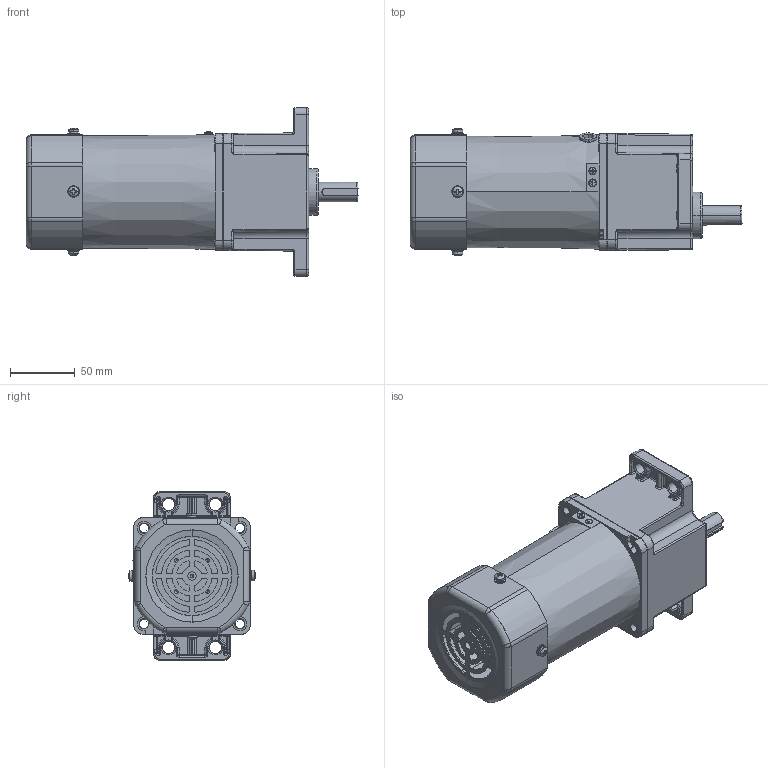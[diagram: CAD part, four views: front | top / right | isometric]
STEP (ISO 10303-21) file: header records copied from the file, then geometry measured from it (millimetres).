
FILE_DESCRIPTION (( 'STEP AP203' ), '1' );
FILE_NAME ('5IK90RGU-CF(5GU3K-200K).STEP', '2023-08-08T06:46:30', ( 'Windows User' ), ( 'P R C' ), 'SwSTEP 2.0', 'SolidWorks 2019', '' );
FILE_SCHEMA (( 'CONFIG_CONTROL_DESIGN' ));
Length unit declared in the file: millimetre
Products named in the file (9): 90TSFZ^5IK90RA-CF_5IK90RGU-CF(5GU3K-200K)(2)_5IK90RGU-CF(5GU3K-200K); ^_5GU3K-200K_5IK90RGU-CF(5GU3K-200K)(2)_5IK90RGU-CF(5GU3K-200K); 5IK90RGU-CF(5GU3K-200K); ^5GU3K-200K_5IK90RGU-CF(5GU3K-200K)(2)_5IK90RGU-CF(5GU3K-200K); 5IK90RA-CF^5IK90RGU-CF(5GU3K-200K)(2)_5IK90RGU-CF(5GU3K-200K); M3^5IK90RA-CF_5IK90RGU-CF(5GU3K-200K)(2)_5IK90RGU-CF(5GU3K-200K); 5GU3K-200K^5IK90RGU-CF(5GU3K-200K)(2)_5IK90RGU-CF(5GU3K-200K); 5IK90RGU-CF(5GU3K-200K)(2)^5IK90RGU-CF(5GU3K-200K); 90JK^5IK90RA-CF_5IK90RGU-CF(5GU3K-200K)(2)_5IK90RGU-CF(5GU3K-200K)
Assembly tree (8 placements, depth 5):
  5IK90RGU-CF(5GU3K-200K)
    5IK90RGU-CF(5GU3K-200K)(2)^5IK90RGU-CF(5GU3K-200K)
      5IK90RA-CF^5IK90RGU-CF(5GU3K-200K)(2)_5IK90RGU-CF(5GU3K-200K)
        90JK^5IK90RA-CF_5IK90RGU-CF(5GU3K-200K)(2)_5IK90RGU-CF(5GU3K-200K)
        90TSFZ^5IK90RA-CF_5IK90RGU-CF(5GU3K-200K)(2)_5IK90RGU-CF(5GU3K-200K)
        M3^5IK90RA-CF_5IK90RGU-CF(5GU3K-200K)(2)_5IK90RGU-CF(5GU3K-200K)
      5GU3K-200K^5IK90RGU-CF(5GU3K-200K)(2)_5IK90RGU-CF(5GU3K-200K)
        ^5GU3K-200K_5IK90RGU-CF(5GU3K-200K)(2)_5IK90RGU-CF(5GU3K-200K)
          ^_5GU3K-200K_5IK90RGU-CF(5GU3K-200K)(2)_5IK90RGU-CF(5GU3K-200K)
Bounding box: 255.5 x 98.11 x 129.97 mm (x, y, z)
Volume: 1249777.6 mm3; surface area: 142017.8 mm2
Topology: 17 solids, 17 shells, 1139 faces, 2827 edges, 1695 vertices
Faces by surface type: cylinder 462, plane 284, cone 159, bspline 115, torus 67, sphere 52
Entity records: 42312 total; most frequent: CARTESIAN_POINT 14923, DIRECTION 5668, ORIENTED_EDGE 5516, EDGE_CURVE 2758, AXIS2_PLACEMENT_3D 2281, VERTEX_POINT 1694, EDGE_LOOP 1246, CIRCLE 1242
